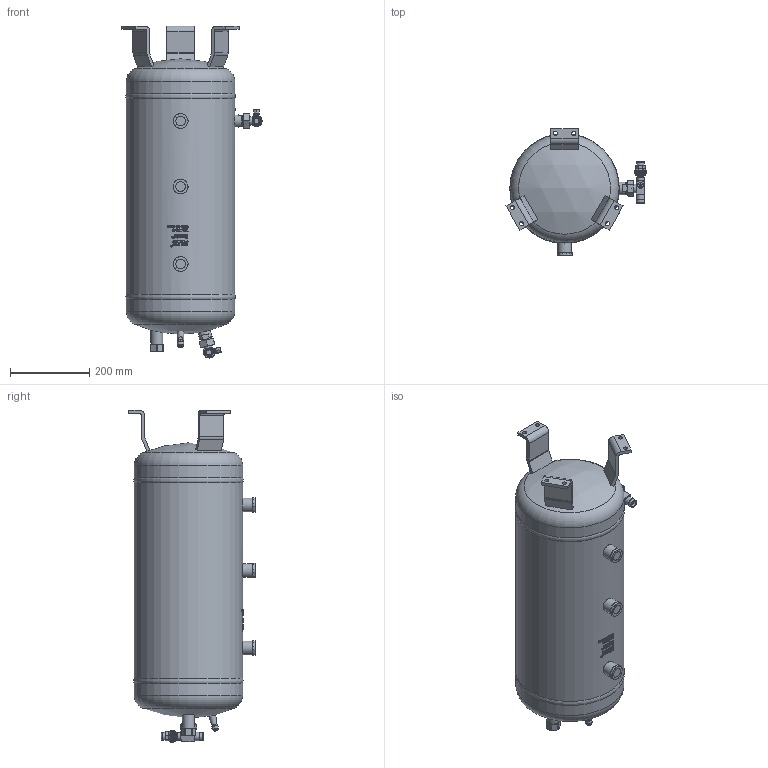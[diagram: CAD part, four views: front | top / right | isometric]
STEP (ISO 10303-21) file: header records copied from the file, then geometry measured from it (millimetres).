
FILE_DESCRIPTION(/* description */ (''),/* implementation_level */ '2;1');
FILE_NAME(/* name */ 'C:\Users\Landmann\Desktop\OSA-32-CDM_AG-Kunde.stp',/* time_stamp */ '2025-06-18T13:28:44+02:00',/* author */ ('Landmann'),/* organization */ (''),/* preprocessor_version */ 'ST-DEVELOPER v18.1',/* originating_system */ 'Autodesk Inventor 2021',/* authorisation */ '');
FILE_SCHEMA (('AUTOMOTIVE_DESIGN { 1 0 10303 214 3 1 1 }'));
Length unit declared in the file: millimetre
Products named in the file (3): OSA-32-CDM_AG-Kunde; OSA-32-CDM_AG-Kunde_1; RAV-1.1/4"-16-CDM
Assembly tree (3 placements, depth 2):
  OSA-32-CDM_AG-Kunde
    OSA-32-CDM_AG-Kunde_1
    RAV-1.1/4"-16-CDM  x2
Bounding box: 352.4 x 318 x 835.43 mm (x, y, z)
Volume: 38984500.3 mm3; surface area: 822365.7 mm2
Topology: 6 solids, 21 shells, 2487 faces, 6614 edges, 4356 vertices
Faces by surface type: plane 1338, cylinder 497, bspline 394, cone 229, torus 24, sphere 5
Full cylindrical faces by diameter (mm): 4 x4, 6.5 x4, 7.2 x1, 9 x4, 9.4 x4, 10.1 x4, 10.5 x6, 10.72 x4, 11 x5, 12.9 x1, 13 x4, 13.5 x5, 14.2 x4, 15.7 x1, 16 x1, 16.2 x4, 16.5 x8, 17.3 x4, 19 x12, 19.9 x4, 20 x4, 21 x4, 22 x6, 22.1 x2, 22.22 x2, 23.5 x2, 24 x3, 25 x4, 27 x4, 28.7 x4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
Entity records: 82146 total; most frequent: CARTESIAN_POINT 28827, ORIENTED_EDGE 11620, DIRECTION 10094, EDGE_CURVE 5810, VERTEX_POINT 3830, AXIS2_PLACEMENT_3D 3652, LINE 2790, VECTOR 2790
